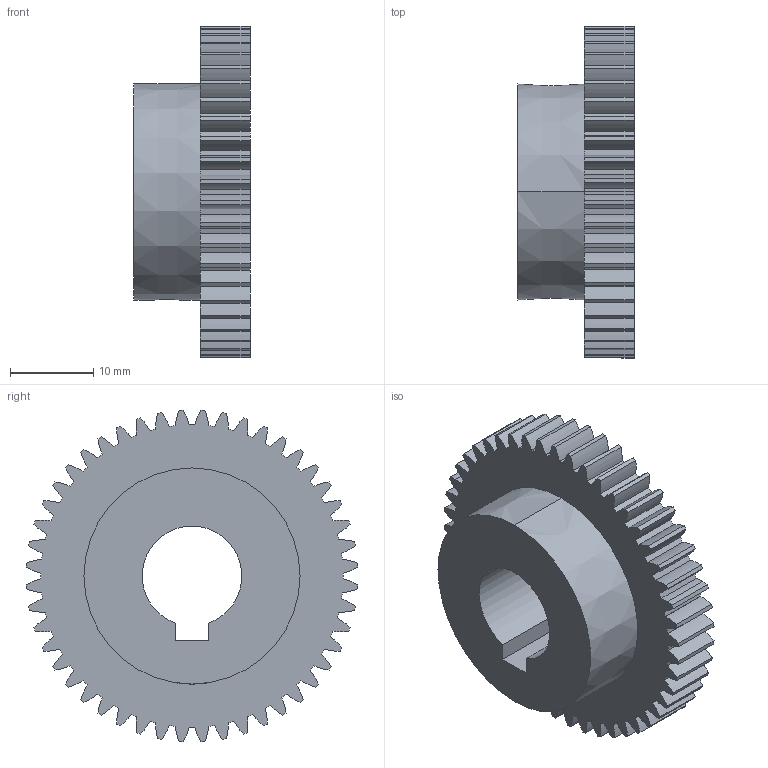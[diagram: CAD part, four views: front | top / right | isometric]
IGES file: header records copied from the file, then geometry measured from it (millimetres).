
Start section: 3D InterOp IGES (v. 2020 1.0.1), Spatial Corp. Copyright (c) 1999-2017.
Global section: file name: ssp08_w6_t48_bk.igs; native system: Spatial Corp.; preprocessor: 3D InterOp ACIS/IGES; author: TraceParts; organization: TraceParts S.A.; date: 20220624.033000; units: millimetre
Bounding box: 14 x 39.94 x 39.94 mm (x, y, z)
Surface area: 4742.1 mm2 (no closed solid volume)
Topology: 0 solids, 0 shells, 222 faces, 1304 edges, 1304 vertices
Faces by surface type: revolution 208, extrusion 14
